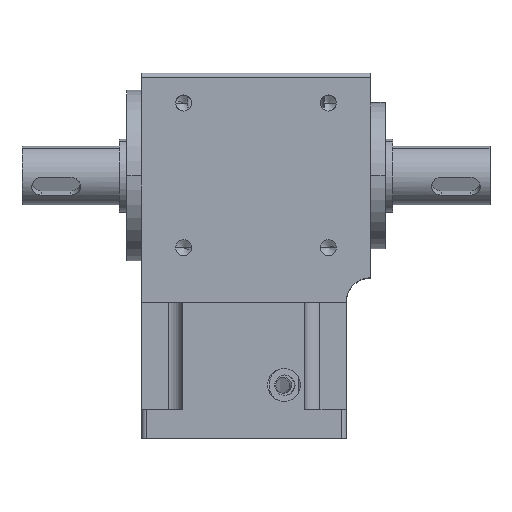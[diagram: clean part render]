
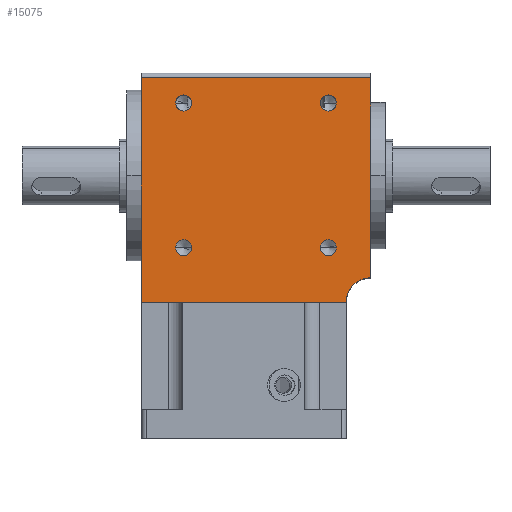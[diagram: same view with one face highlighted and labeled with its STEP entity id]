
A CAD part, top view. The second image highlights one B-rep face of the part: STEP entity #15075.
In plain terms, the highlighted planar face has unit normal (0, 0, 1).
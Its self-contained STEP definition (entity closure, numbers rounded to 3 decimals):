
#476 = DIRECTION ( 'NONE',  ( 0., 0., 1. ) ) ;
#581 = CARTESIAN_POINT ( 'NONE',  ( 10.001, 17.349, 21. ) ) ;
#1245 = CIRCLE ( 'NONE', #2088, 1.65 ) ;
#1571 = CARTESIAN_POINT ( 'NONE',  ( 53., 22.5, 21. ) ) ;
#1679 = CARTESIAN_POINT ( 'NONE',  ( 50., -23.5, 21. ) ) ;
#1837 = DIRECTION ( 'NONE',  ( 1., 0., 0. ) ) ;
#2003 = AXIS2_PLACEMENT_3D ( 'NONE', #22284, #8283, #24631 ) ;
#2088 = AXIS2_PLACEMENT_3D ( 'NONE', #22708, #8715, #25052 ) ;
#2430 = EDGE_CURVE ( 'NONE', #20303, #24382, #18585, .T. ) ;
#2791 = AXIS2_PLACEMENT_3D ( 'NONE', #24714, #10733, #27056 ) ;
#2859 = CIRCLE ( 'NONE', #2791, 1.65 ) ;
#2898 = EDGE_CURVE ( 'NONE', #29379, #11499, #4305, .T. ) ;
#3068 = VERTEX_POINT ( 'NONE', #22149 ) ;
#3437 = VERTEX_POINT ( 'NONE', #29648 ) ;
#3627 = ORIENTED_EDGE ( 'NONE', *, *, #28072, .F. ) ;
#3891 = CARTESIAN_POINT ( 'NONE',  ( 41.349, -12.349, 21. ) ) ;
#3973 = ORIENTED_EDGE ( 'NONE', *, *, #22960, .F. ) ;
#4018 = AXIS2_PLACEMENT_3D ( 'NONE', #14490, #476, #16849 ) ;
#4094 = ORIENTED_EDGE ( 'NONE', *, *, #13177, .F. ) ;
#4305 = CIRCLE ( 'NONE', #4018, 1.65 ) ;
#4454 = ORIENTED_EDGE ( 'NONE', *, *, #2898, .F. ) ;
#4568 = CIRCLE ( 'NONE', #2003, 1.65 ) ;
#4833 = AXIS2_PLACEMENT_3D ( 'NONE', #29770, #15840, #1837 ) ;
#5160 = AXIS2_PLACEMENT_3D ( 'NONE', #20034, #6020, #22348 ) ;
#5223 = VERTEX_POINT ( 'NONE', #16478 ) ;
#6020 = DIRECTION ( 'NONE',  ( 0., 0., 1. ) ) ;
#6210 = DIRECTION ( 'NONE',  ( 1., 0., 0. ) ) ;
#6398 = CIRCLE ( 'NONE', #4833, 5. ) ;
#6595 = DIRECTION ( 'NONE',  ( 0., 0., 1. ) ) ;
#6642 = VERTEX_POINT ( 'NONE', #7090 ) ;
#6844 = CARTESIAN_POINT ( 'NONE',  ( 53., -23.5, 21. ) ) ;
#6932 = DIRECTION ( 'NONE',  ( -1., 0., 0. ) ) ;
#7090 = CARTESIAN_POINT ( 'NONE',  ( 39.699, -12.349, 21. ) ) ;
#7359 = ORIENTED_EDGE ( 'NONE', *, *, #28015, .F. ) ;
#7658 = EDGE_CURVE ( 'NONE', #8235, #3437, #27760, .T. ) ;
#8037 = ORIENTED_EDGE ( 'NONE', *, *, #21929, .F. ) ;
#8235 = VERTEX_POINT ( 'NONE', #15460 ) ;
#8283 = DIRECTION ( 'NONE',  ( 0., 0., 1. ) ) ;
#8423 = PLANE ( 'NONE',  #17600 ) ;
#8520 = VERTEX_POINT ( 'NONE', #16869 ) ;
#8715 = DIRECTION ( 'NONE',  ( 0., 0., 1. ) ) ;
#10282 = EDGE_LOOP ( 'NONE', ( #23848, #15212 ) ) ;
#10700 = CARTESIAN_POINT ( 'NONE',  ( 13.301, 17.349, 21. ) ) ;
#10733 = DIRECTION ( 'NONE',  ( 0., 0., 1. ) ) ;
#10793 = DIRECTION ( 'NONE',  ( -1., 0., 0. ) ) ;
#10804 = AXIS2_PLACEMENT_3D ( 'NONE', #12427, #28746, #14815 ) ;
#11118 = FACE_BOUND ( 'NONE', #23113, .T. ) ;
#11499 = VERTEX_POINT ( 'NONE', #17365 ) ;
#11861 = EDGE_LOOP ( 'NONE', ( #19127, #19518, #3973, #4094, #17668 ) ) ;
#12134 = DIRECTION ( 'NONE',  ( 0., 1., 0. ) ) ;
#12427 = CARTESIAN_POINT ( 'NONE',  ( 41.349, 17.349, 21. ) ) ;
#13083 = EDGE_CURVE ( 'NONE', #3437, #8520, #6398, .T. ) ;
#13177 = EDGE_CURVE ( 'NONE', #8520, #14365, #29003, .T. ) ;
#13322 = CARTESIAN_POINT ( 'NONE',  ( 39.699, 17.349, 21. ) ) ;
#13775 = EDGE_LOOP ( 'NONE', ( #8037, #18116 ) ) ;
#14011 = VECTOR ( 'NONE', #15582, 1000. ) ;
#14291 = CARTESIAN_POINT ( 'NONE',  ( 3., -23.5, 21. ) ) ;
#14365 = VERTEX_POINT ( 'NONE', #14291 ) ;
#14490 = CARTESIAN_POINT ( 'NONE',  ( 41.349, 17.349, 21. ) ) ;
#14815 = DIRECTION ( 'NONE',  ( 1., 0., 0. ) ) ;
#15075 = ADVANCED_FACE ( 'NONE', ( #29700, #11118, #28976, #17355, #22812 ), #8423, .F. ) ;
#15212 = ORIENTED_EDGE ( 'NONE', *, *, #2430, .F. ) ;
#15460 = CARTESIAN_POINT ( 'NONE',  ( 50., 22.5, 21. ) ) ;
#15582 = DIRECTION ( 'NONE',  ( -1., 0., 0. ) ) ;
#15840 = DIRECTION ( 'NONE',  ( 0., 0., 1. ) ) ;
#16478 = CARTESIAN_POINT ( 'NONE',  ( 42.999, -12.349, 21. ) ) ;
#16849 = DIRECTION ( 'NONE',  ( 1., 0., 0. ) ) ;
#16869 = CARTESIAN_POINT ( 'NONE',  ( 45., -23.5, 21. ) ) ;
#16930 = LINE ( 'NONE', #28445, #22393 ) ;
#17029 = CARTESIAN_POINT ( 'NONE',  ( 10.001, -12.349, 21. ) ) ;
#17355 = FACE_BOUND ( 'NONE', #13775, .T. ) ;
#17365 = CARTESIAN_POINT ( 'NONE',  ( 42.999, 17.349, 21. ) ) ;
#17600 = AXIS2_PLACEMENT_3D ( 'NONE', #29141, #24769, #10793 ) ;
#17668 = ORIENTED_EDGE ( 'NONE', *, *, #13083, .F. ) ;
#18041 = ORIENTED_EDGE ( 'NONE', *, *, #18130, .F. ) ;
#18116 = ORIENTED_EDGE ( 'NONE', *, *, #27640, .F. ) ;
#18130 = EDGE_CURVE ( 'NONE', #6642, #5223, #2859, .T. ) ;
#18585 = CIRCLE ( 'NONE', #5160, 1.65 ) ;
#18757 = EDGE_CURVE ( 'NONE', #24382, #20303, #21470, .T. ) ;
#19127 = ORIENTED_EDGE ( 'NONE', *, *, #7658, .F. ) ;
#19518 = ORIENTED_EDGE ( 'NONE', *, *, #29786, .T. ) ;
#19863 = VERTEX_POINT ( 'NONE', #10700 ) ;
#20034 = CARTESIAN_POINT ( 'NONE',  ( 11.651, -12.349, 21. ) ) ;
#20219 = AXIS2_PLACEMENT_3D ( 'NONE', #3891, #20233, #6210 ) ;
#20233 = DIRECTION ( 'NONE',  ( 0., 0., 1. ) ) ;
#20256 = LINE ( 'NONE', #1571, #14011 ) ;
#20303 = VERTEX_POINT ( 'NONE', #17029 ) ;
#20558 = CARTESIAN_POINT ( 'NONE',  ( 13.301, -12.349, 21. ) ) ;
#20626 = CARTESIAN_POINT ( 'NONE',  ( 11.651, -12.349, 21. ) ) ;
#21470 = CIRCLE ( 'NONE', #21990, 1.65 ) ;
#21929 = EDGE_CURVE ( 'NONE', #19863, #26093, #1245, .T. ) ;
#21990 = AXIS2_PLACEMENT_3D ( 'NONE', #20626, #6595, #22949 ) ;
#22149 = CARTESIAN_POINT ( 'NONE',  ( 3., 22.5, 21. ) ) ;
#22284 = CARTESIAN_POINT ( 'NONE',  ( 11.651, 17.349, 21. ) ) ;
#22348 = DIRECTION ( 'NONE',  ( 1., 0., 0. ) ) ;
#22393 = VECTOR ( 'NONE', #12134, 1000. ) ;
#22708 = CARTESIAN_POINT ( 'NONE',  ( 11.651, 17.349, 21. ) ) ;
#22812 = FACE_OUTER_BOUND ( 'NONE', #11861, .T. ) ;
#22949 = DIRECTION ( 'NONE',  ( 1., 0., 0. ) ) ;
#22960 = EDGE_CURVE ( 'NONE', #14365, #3068, #16930, .T. ) ;
#23113 = EDGE_LOOP ( 'NONE', ( #3627, #18041 ) ) ;
#23529 = CIRCLE ( 'NONE', #10804, 1.65 ) ;
#23848 = ORIENTED_EDGE ( 'NONE', *, *, #18757, .F. ) ;
#24382 = VERTEX_POINT ( 'NONE', #20558 ) ;
#24631 = DIRECTION ( 'NONE',  ( 1., 0., 0. ) ) ;
#24714 = CARTESIAN_POINT ( 'NONE',  ( 41.349, -12.349, 21. ) ) ;
#24769 = DIRECTION ( 'NONE',  ( 0., 0., -1. ) ) ;
#25028 = DIRECTION ( 'NONE',  ( 0., -1., 0. ) ) ;
#25052 = DIRECTION ( 'NONE',  ( 1., 0., 0. ) ) ;
#26093 = VERTEX_POINT ( 'NONE', #581 ) ;
#26426 = EDGE_LOOP ( 'NONE', ( #7359, #4454 ) ) ;
#27056 = DIRECTION ( 'NONE',  ( 1., 0., 0. ) ) ;
#27640 = EDGE_CURVE ( 'NONE', #26093, #19863, #4568, .T. ) ;
#27760 = LINE ( 'NONE', #1679, #28466 ) ;
#28015 = EDGE_CURVE ( 'NONE', #11499, #29379, #23529, .T. ) ;
#28072 = EDGE_CURVE ( 'NONE', #5223, #6642, #28965, .T. ) ;
#28282 = VECTOR ( 'NONE', #6932, 1000. ) ;
#28445 = CARTESIAN_POINT ( 'NONE',  ( 3., -23.5, 21. ) ) ;
#28466 = VECTOR ( 'NONE', #25028, 1000. ) ;
#28746 = DIRECTION ( 'NONE',  ( 0., 0., 1. ) ) ;
#28965 = CIRCLE ( 'NONE', #20219, 1.65 ) ;
#28976 = FACE_BOUND ( 'NONE', #10282, .T. ) ;
#29003 = LINE ( 'NONE', #6844, #28282 ) ;
#29141 = CARTESIAN_POINT ( 'NONE',  ( 53., -23.5, 21. ) ) ;
#29379 = VERTEX_POINT ( 'NONE', #13322 ) ;
#29648 = CARTESIAN_POINT ( 'NONE',  ( 50., -18.5, 21. ) ) ;
#29700 = FACE_BOUND ( 'NONE', #26426, .T. ) ;
#29770 = CARTESIAN_POINT ( 'NONE',  ( 50., -23.5, 21. ) ) ;
#29786 = EDGE_CURVE ( 'NONE', #8235, #3068, #20256, .T. ) ;
